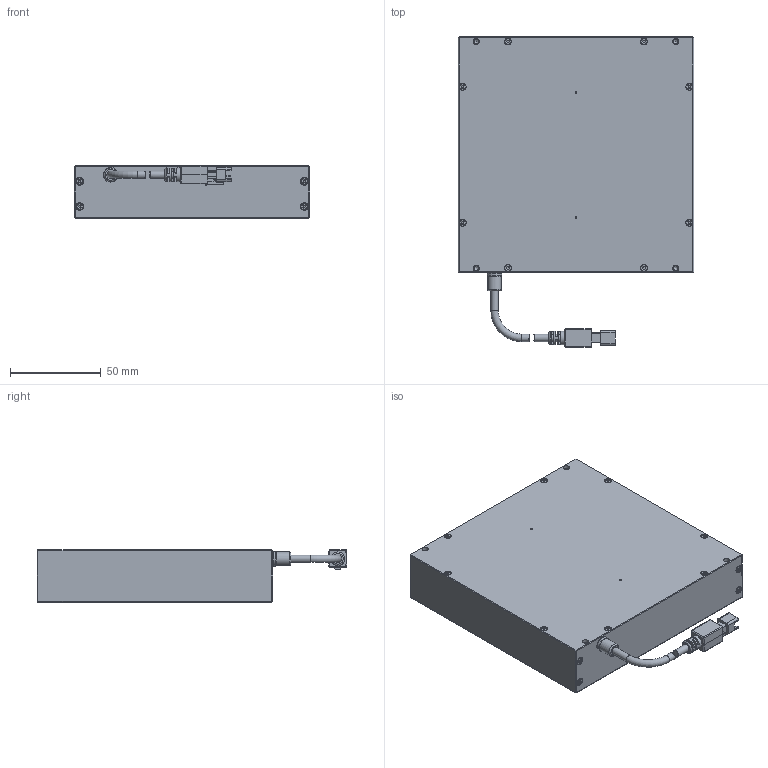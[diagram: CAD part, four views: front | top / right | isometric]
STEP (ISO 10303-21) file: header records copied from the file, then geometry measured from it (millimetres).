
FILE_DESCRIPTION (( 'STEP AP203' ), '1' );
FILE_NAME ('OPT-IFLA130130-IR-V1.0尨砩芞.STEP', '2024-12-17T07:46:50', ( '' ), ( '' ), 'SwSTEP 2.0', 'SolidWorks 2016', '' );
FILE_SCHEMA (( 'CONFIG_CONTROL_DESIGN' ));
Length unit declared in the file: millimetre
Products named in the file (1): OPT-IFLA130130-IR-V1.0尨砩芞
Bounding box: 130 x 171 x 29 mm (x, y, z)
Volume: 475585 mm3; surface area: 59921 mm2
Topology: 15 solids, 23 shells, 804 faces, 1880 edges, 1163 vertices
Faces by surface type: plane 472, cylinder 233, cone 70, bspline 20, torus 9
Full cylindrical faces by diameter (mm): 1.1 x2, 1.6 x16, 2 x16, 2.4 x16, 2.5 x4, 3.4 x4, 3.5 x1, 3.8 x16, 4.1 x4, 5.8 x1, 7.5 x2, 8 x1
Entity records: 21960 total; most frequent: CARTESIAN_POINT 4480, DIRECTION 3650, ORIENTED_EDGE 3316, EDGE_CURVE 1658, AXIS2_PLACEMENT_3D 1271, VECTOR 1108, LINE 1108, VERTEX_POINT 1103
